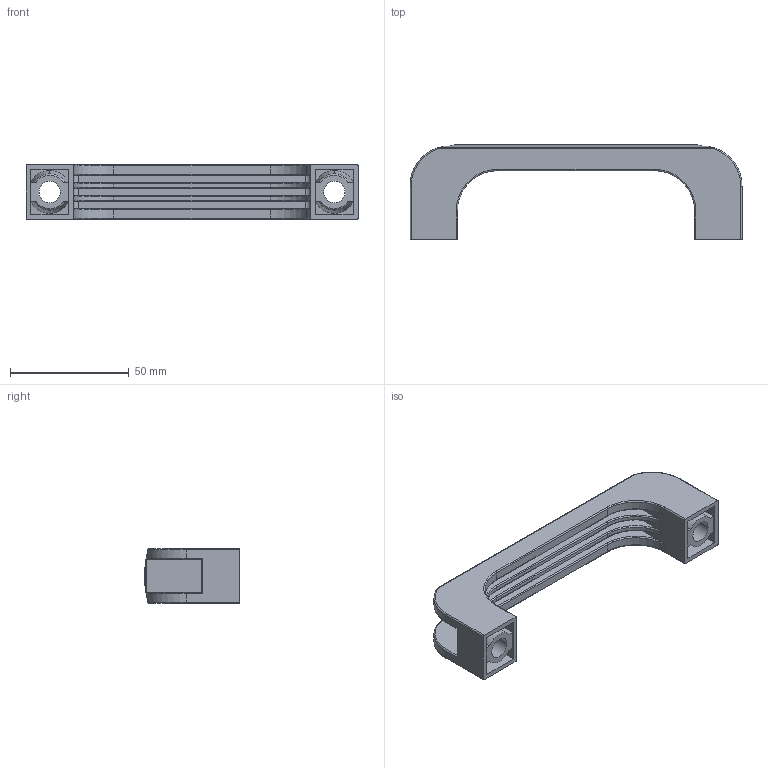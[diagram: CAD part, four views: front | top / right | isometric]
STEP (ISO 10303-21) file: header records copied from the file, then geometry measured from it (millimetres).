
FILE_DESCRIPTION (( 'STEP AP203' ), '1' );
FILE_NAME ('SK4-009-1.STEP', '2018-11-02T03:39:45', ( 'admin' ), ( 'Microsoft' ), 'SwSTEP 2.0', 'SolidWorks 2015', '' );
FILE_SCHEMA (( 'CONFIG_CONTROL_DESIGN' ));
Length unit declared in the file: millimetre
Products named in the file (1): SK4-009-1
Bounding box: 140 x 40 x 23 mm (x, y, z)
Volume: 37144.9 mm3; surface area: 23507.7 mm2
Topology: 1 solids, 1 shells, 177 faces, 450 edges, 275 vertices
Faces by surface type: cylinder 64, plane 59, torus 29, sphere 10, bspline 9, cone 6
Entity records: 5819 total; most frequent: CARTESIAN_POINT 1520, ORIENTED_EDGE 896, DIRECTION 894, EDGE_CURVE 448, AXIS2_PLACEMENT_3D 345, VERTEX_POINT 275, LINE 204, VECTOR 204
